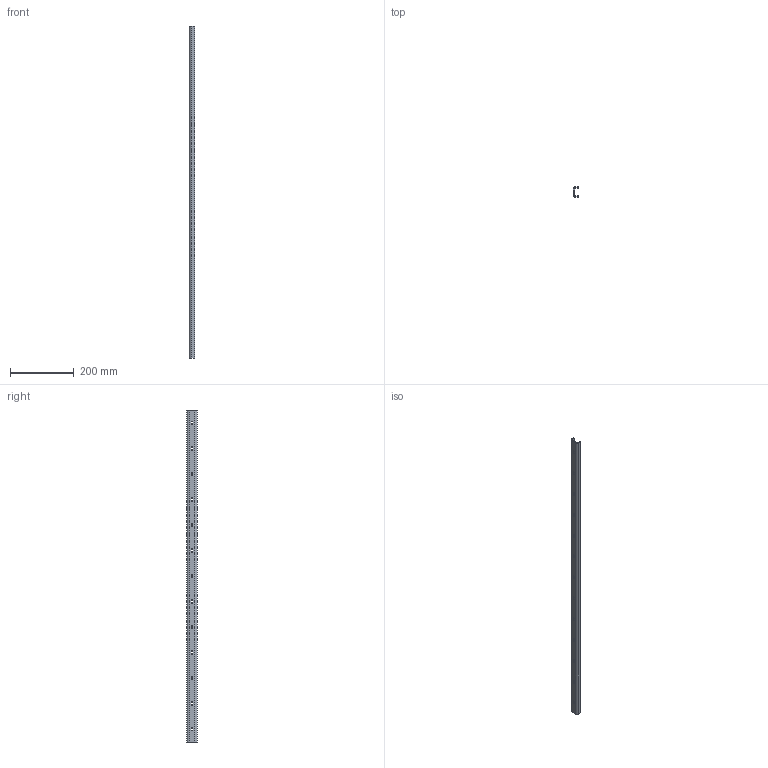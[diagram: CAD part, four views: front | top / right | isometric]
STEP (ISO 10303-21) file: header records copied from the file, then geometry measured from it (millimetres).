
FILE_DESCRIPTION (( 'STEP AP203' ), '1' );
FILE_NAME ('L1970.30U-1040.step', '2026-01-14T10:55:01', ( '' ), ( '' ), 'SwSTEP 2.0', 'SolidWorks 2019', '' );
FILE_SCHEMA (( 'CONFIG_CONTROL_DESIGN' ));
Length unit declared in the file: millimetre
Products named in the file (1): L1970.30U-1040
Bounding box: 16 x 31.8 x 1040 mm (x, y, z)
Volume: 211242.9 mm3; surface area: 115853.7 mm2
Topology: 1 solids, 1 shells, 79 faces, 231 edges, 154 vertices
Faces by surface type: cylinder 43, plane 36
Entity records: 2780 total; most frequent: DIRECTION 477, CARTESIAN_POINT 465, ORIENTED_EDGE 462, EDGE_CURVE 231, AXIS2_PLACEMENT_3D 166, VERTEX_POINT 154, LINE 145, VECTOR 145
